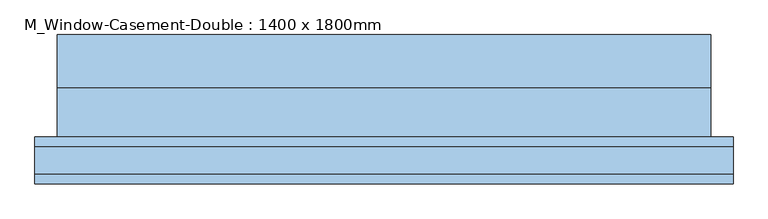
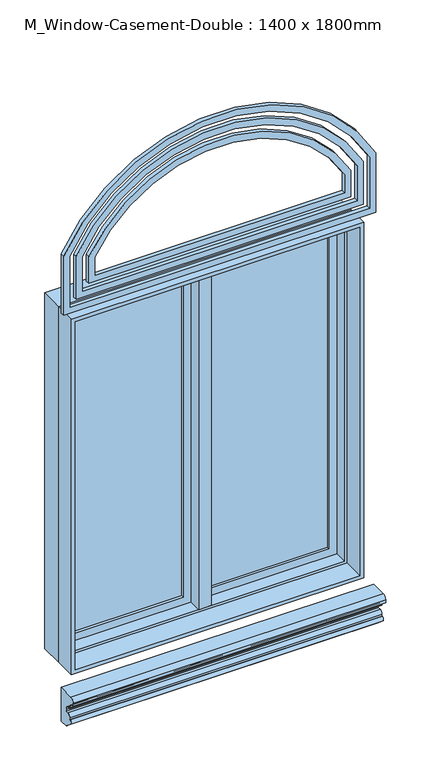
"""IFC4 building model written with IfcOpenShell, lengths in millimetres: window geometry, M_Window-Casement-Double : 1400 x 1800mm."""

from ifc_helpers import new_model, si_unit, point, frame, frame_2d, origin, place, context, project, spatial, polyline, circle_curve, trimmed, segment, composite_curve, outline, extrude, faceted_brep, source, transform, mapped, element, save


def m_window_casement_double_1400_x_1800mm_877d247a(model_context):
    return source(origin(), model_context, "Body", "SolidModel", [
        faceted_brep([(9.525, 119.05, 2687.3), (-9.525, 119.05, 2687.3), (-9.525, 68.25, 2687.3), (9.525, 68.25, 2687.3), (9.525, 119.05, 912.7), (9.525, 68.25, 912.7), (-9.525, 68.25, 912.7), (-9.525, 119.05, 912.7), (-9.525, 68.25, 931.75), (-9.525, 68.25, 2668.25), (-30.1625, 68.25, 931.75), (-30.1625, 68.25, 2668.25), (-30.1625, 4.75, 931.75), (-30.1625, 4.75, 2668.25), (30.1625, 4.75, 931.75), (30.1625, 4.75, 2668.25), (30.1625, 68.25, 931.75), (30.1625, 68.25, 2668.25), (9.525, 68.25, 931.75), (9.525, 68.25, 2668.25)], [[[0, 1, 2, 3]], [[4, 5, 6, 7]], [[1, 0, 4, 7]], [[2, 1, 7, 6, 8, 9]], [[9, 8, 10, 11]], [[11, 10, 12, 13]], [[13, 12, 14, 15]], [[15, 14, 16, 17]], [[17, 16, 18, 19]], [[0, 3, 19, 18, 5, 4]], [[18, 8, 6, 5]], [[9, 19, 3, 2]], [[8, 18, 16, 14, 12, 10]], [[19, 9, 11, 13, 15, 17]]]),
        extrude(outline(polyline([(-66.675, 100.0), (-66.675, 93.65), (-630.15, 93.65), (-630.15, 100.0), (-66.675, 100.0)])), frame((0.0, 0.0, 969.85), z_axis=(0.0, 0.0, 1.0), x_axis=(1.0, 0.0, 0.0)), (0.0, 0.0, 1.0), 1660.3),
        extrude(outline(polyline([(-630.15, 80.95), (-630.15, 87.3), (-66.675, 87.3), (-66.675, 80.95), (-630.15, 80.95)])), frame((0.0, 0.0, 969.85), z_axis=(0.0, 0.0, 1.0), x_axis=(1.0, 0.0, 0.0)), (0.0, 0.0, 1.0), 1660.3),
        extrude(outline(polyline([(630.15, 100.0), (630.15, 93.65), (66.675, 93.65), (66.675, 100.0), (630.15, 100.0)])), frame((0.0, 0.0, 969.85), z_axis=(0.0, 0.0, 1.0), x_axis=(1.0, 0.0, 0.0)), (0.0, 0.0, 1.0), 1660.3),
        extrude(outline(polyline([(66.675, 80.95), (66.675, 87.3), (630.15, 87.3), (630.15, 80.95), (66.675, 80.95)])), frame((0.0, 0.0, 969.85), z_axis=(0.0, 0.0, 1.0), x_axis=(1.0, 0.0, 0.0)), (0.0, 0.0, 1.0), 1660.3),
        extrude(outline(polyline([(2687.3, -687.3), (912.7, -687.3), (912.7, -9.525), (2687.3, -9.525), (2687.3, -687.3)]), holes=[polyline([(2630.15, -66.675), (969.85, -66.675), (969.85, -630.15), (2630.15, -630.15), (2630.15, -66.675)])]), frame((0.0, 68.25, 0.0), z_axis=(0.0, 1.0, 0.0), x_axis=(0.0, 0.0, 1.0)), (0.0, 0.0, 1.0), 44.45),
        extrude(outline(polyline([(912.7, 687.3), (2687.3, 687.3), (2687.3, 9.525), (912.7, 9.525), (912.7, 687.3)]), holes=[polyline([(969.85, 66.675), (2630.15, 66.675), (2630.15, 630.15), (969.85, 630.15), (969.85, 66.675)])]), frame((0.0, 68.25, 0.0), z_axis=(0.0, 1.0, 0.0), x_axis=(0.0, 0.0, 1.0)), (0.0, 0.0, 1.0), 44.45),
        extrude(outline(polyline([(2700.0, -700.0), (900.0, -700.0), (900.0, 700.0), (2700.0, 700.0), (2700.0, -700.0)]), holes=[polyline([(2680.95, 680.95), (919.05, 680.95), (919.05, -680.95), (2680.95, -680.95), (2680.95, 680.95)])]), frame((0.0, -100.0, 0.0), z_axis=(0.0, 1.0, 0.0), x_axis=(0.0, 0.0, 1.0)), (0.0, 0.0, 1.0), 104.75),
        faceted_brep([(668.25, 68.25, 2668.25), (668.25, 4.75, 2668.25), (-668.25, 4.75, 2668.25), (-668.25, 68.25, 2668.25), (687.3, 119.05, 2687.3), (687.3, 68.25, 2687.3), (-687.3, 68.25, 2687.3), (-687.3, 119.05, 2687.3), (700.0, 4.75, 2700.0), (700.0, 119.05, 2700.0), (-700.0, 119.05, 2700.0), (-700.0, 4.75, 2700.0), (-668.25, 4.75, 931.75), (-668.25, 68.25, 931.75), (-687.3, 68.25, 912.7), (-687.3, 119.05, 912.7), (-700.0, 119.05, 900.0), (-700.0, 4.75, 900.0), (668.25, 4.75, 931.75), (668.25, 68.25, 931.75), (687.3, 68.25, 912.7), (687.3, 119.05, 912.7), (700.0, 119.05, 900.0), (700.0, 4.75, 900.0)], [[[0, 1, 2, 3]], [[4, 5, 6, 7]], [[8, 9, 10, 11]], [[3, 2, 12, 13]], [[7, 6, 14, 15]], [[11, 10, 16, 17]], [[13, 12, 18, 19]], [[15, 14, 20, 21]], [[17, 16, 22, 23]], [[11, 17, 23, 8], [1, 18, 12, 2]], [[19, 18, 1, 0]], [[5, 20, 14, 6], [3, 13, 19, 0]], [[21, 20, 5, 4]], [[23, 22, 9, 8]], [[9, 22, 16, 10], [7, 15, 21, 4]]]),
        extrude(outline(composite_curve([segment(polyline([(2747.3, -747.3), (2747.3, 747.3), (3047.3, 747.3)]), True, "CONTINUOUS"), segment(trimmed(circle_curve(frame_2d((2662.8350499, 0.0)), 840.3990647), [point((3047.3, 747.3))], [point((3047.3, -747.3))], False, "CARTESIAN"), True, "CONTINUOUS"), segment(polyline([(3047.3, -747.3), (2747.3, -747.3)]), True, "CONTINUOUS")], self_intersect=False), holes=[composite_curve([segment(trimmed(circle_curve(frame_2d((2662.8350499, 0.0)), 808.7834124), [point((3036.4810296, -717.3))], [point((3036.4810296, 717.3))], True, "CARTESIAN"), True, "CONTINUOUS"), segment(polyline([(3036.4810296, 717.3), (2777.3, 717.3), (2777.3, -717.3), (3036.4810296, -717.3)]), True, "CONTINUOUS")], self_intersect=False)]), frame((0.0, -120.0, 0.0), z_axis=(0.0, 1.0, 0.0), x_axis=(0.0, 0.0, 1.0)), (0.0, 0.0, 1.0), 20.0),
        extrude(outline(composite_curve([segment(polyline([(3025.3393098, -687.3), (2807.3, -687.3), (2807.3, 687.3), (3025.3393098, 687.3)]), True, "CONTINUOUS"), segment(trimmed(circle_curve(frame_2d((2662.8350499, 0.0)), 777.039657), [point((3025.3393098, 687.3))], [point((3025.3393098, -687.3))], False, "CARTESIAN"), True, "CONTINUOUS")], self_intersect=False), holes=[composite_curve([segment(trimmed(circle_curve(frame_2d((2662.8350499, 0.0)), 745.1514267), [point((3013.8441078, -657.3))], [point((3013.8441078, 657.3))], True, "CARTESIAN"), True, "CONTINUOUS"), segment(polyline([(3013.8441078, 657.3), (2837.3, 657.3), (2837.3, -657.3), (3013.8441078, -657.3)]), True, "CONTINUOUS")], self_intersect=False)]), frame((0.0, -120.0, 0.0), z_axis=(0.0, 1.0, 0.0), x_axis=(0.0, 0.0, 1.0)), (0.0, 0.0, 1.0), 20.0),
        extrude(outline(composite_curve([segment(polyline([(3001.95948, -627.3), (2867.3, -627.3), (2867.3, 627.3), (3001.95948, 627.3)]), True, "CONTINUOUS"), segment(trimmed(circle_curve(frame_2d((2662.8350499, 0.0)), 713.0993403), [point((3001.95948, 627.3))], [point((3001.95948, -627.3))], False, "CARTESIAN"), True, "CONTINUOUS")], self_intersect=False), holes=[composite_curve([segment(trimmed(circle_curve(frame_2d((2662.8350499, 0.0)), 680.8602569), [point((2989.6429436, -597.3))], [point((2989.6429436, 597.3))], True, "CARTESIAN"), True, "CONTINUOUS"), segment(polyline([(2989.6429436, 597.3), (2897.3, 597.3), (2897.3, -597.3), (2989.6429436, -597.3)]), True, "CONTINUOUS")], self_intersect=False)]), frame((0.0, -120.0, 0.0), z_axis=(0.0, 1.0, 0.0), x_axis=(0.0, 0.0, 1.0)), (0.0, 0.0, 1.0), 20.0),
        extrude(outline(composite_curve([segment(polyline([(-180.0, 852.7), (-100.0, 852.7), (-100.0, 682.3540221), (-140.0, 682.3540221), (-178.9531019, 715.0395556)]), True, "CONTINUOUS"), segment(trimmed(circle_curve(frame_2d((-172.5252258, 722.7)), 10.0), [point((-178.9531019, 715.0395556))], [point((-172.5252258, 732.7))], False, "CARTESIAN"), True, "CONTINUOUS"), segment(polyline([(-172.5252258, 732.7), (-170.0, 732.7), (-170.0, 742.7)]), True, "CONTINUOUS"), segment(trimmed(circle_curve(frame_2d((-155.0, 742.7)), 15.0), [point((-170.0, 742.7))], [point((-155.0, 757.7))], False, "CARTESIAN"), True, "CONTINUOUS"), segment(polyline([(-155.0, 757.7), (-140.0, 757.7), (-140.0, 767.7)]), True, "CONTINUOUS"), segment(trimmed(circle_curve(frame_2d((-160.0, 767.7)), 20.0), [point((-140.0, 767.7))], [point((-160.0, 787.7))], True, "CARTESIAN"), True, "CONTINUOUS"), segment(polyline([(-160.0, 787.7), (-170.0, 787.7), (-170.0, 792.7)]), True, "CONTINUOUS"), segment(trimmed(circle_curve(frame_2d((-195.0, 792.7)), 25.0), [point((-170.0, 792.7))], [point((-195.0, 817.7))], True, "CARTESIAN"), True, "CONTINUOUS"), segment(polyline([(-195.0, 817.7), (-200.0, 817.7), (-200.0, 832.7)]), True, "CONTINUOUS"), segment(trimmed(circle_curve(frame_2d((-180.0, 832.7)), 20.0), [point((-200.0, 832.7))], [point((-180.0, 852.7))], False, "CARTESIAN"), True, "CONTINUOUS")], self_intersect=False)), frame((-747.3, 0.0, 0.0), z_axis=(1.0, 0.0, 0.0), x_axis=(0.0, 1.0, 0.0)), (0.0, 0.0, 1.0), 1494.6),
    ])


if __name__ == "__main__":
    model = new_model("IFC4")
    model_context = context("Model", 3, world=origin())
    ifc_project = project(units=[si_unit("LENGTHUNIT", "METRE", prefix="MILLI")], contexts=[model_context])
    site = spatial("IfcSite", under=ifc_project)
    building = spatial("IfcBuilding", under=site)
    placement = place(None, origin())
    m_window_casement_double_1400_x_1800mm_shape = m_window_casement_double_1400_x_1800mm_877d247a(model_context)
    element("IfcWindow", 1, ObjectType="M_Window-Casement-Double : 1400 x 1800mm", at=placement, inside=building, context=model_context, shape_type="MappedRepresentation", body=[
        mapped(m_window_casement_double_1400_x_1800mm_shape, transform((0.0, 0.0, 0.0), x_axis=(1.0, 0.0, 0.0), y_axis=(0.0, 1.0, 0.0), z_axis=(0.0, 0.0, 1.0))),
    ])
    save(model, "model.ifc")
